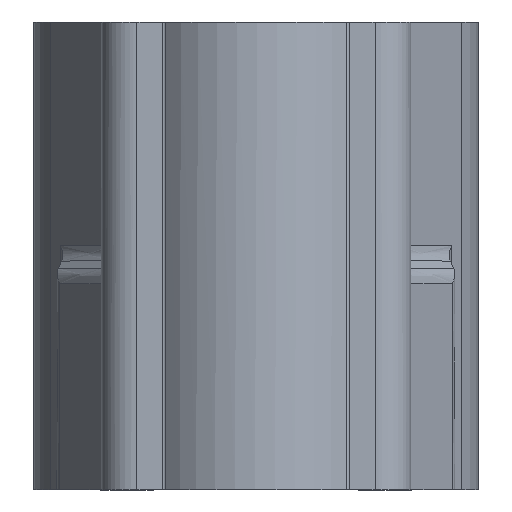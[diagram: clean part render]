
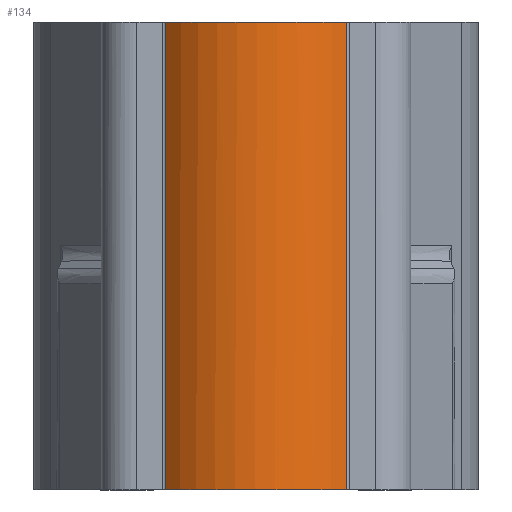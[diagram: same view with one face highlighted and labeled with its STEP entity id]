
A CAD part, left-side view. The second image highlights one B-rep face of the part: STEP entity #134.
In plain terms, the highlighted free-form (B-spline) face has degree [2, 1] with [5, 2] control points.
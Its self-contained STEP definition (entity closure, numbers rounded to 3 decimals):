
#134=ADVANCED_FACE('',(#268),#2068,.T.);
#268=FACE_OUTER_BOUND('',#402,.T.);
#402=EDGE_LOOP('',(#1076,#1077,#1078,#1079));
#1076=ORIENTED_EDGE('',*,*,#1409,.F.);
#1077=ORIENTED_EDGE('',*,*,#1407,.T.);
#1078=ORIENTED_EDGE('',*,*,#1408,.F.);
#1079=ORIENTED_EDGE('',*,*,#1410,.F.);
#1407=EDGE_CURVE('',#1781,#1869,#1633,.T.);
#1408=EDGE_CURVE('',#1868,#1869,#1752,.T.);
#1409=EDGE_CURVE('',#1781,#1782,#1753,.T.);
#1410=EDGE_CURVE('',#1782,#1868,#1634,.T.);
#1633=B_SPLINE_CURVE_WITH_KNOTS('',1,(#4269,#4270),.UNSPECIFIED.,.F.,.F.,
(2,2),(-45.4,0.),.UNSPECIFIED.);
#1634=B_SPLINE_CURVE_WITH_KNOTS('',1,(#4281,#4282),.UNSPECIFIED.,.F.,.F.,
(2,2),(-45.4,0.),.UNSPECIFIED.);
#1752=(
BOUNDED_CURVE()
B_SPLINE_CURVE(2,(#4271,#4272,#4273,#4274,#4275),.UNSPECIFIED.,.F.,.F.)
B_SPLINE_CURVE_WITH_KNOTS((3,2,3),(0.,10.157,20.314),
 .UNSPECIFIED.)
CURVE()
GEOMETRIC_REPRESENTATION_ITEM()
RATIONAL_B_SPLINE_CURVE((1.,0.92,1.,0.92,1.))
REPRESENTATION_ITEM('')
);
#1753=(
BOUNDED_CURVE()
B_SPLINE_CURVE(2,(#4276,#4277,#4278,#4279,#4280),.UNSPECIFIED.,.F.,.F.)
B_SPLINE_CURVE_WITH_KNOTS((3,2,3),(-20.314,-10.157,
0.),.UNSPECIFIED.)
CURVE()
GEOMETRIC_REPRESENTATION_ITEM()
RATIONAL_B_SPLINE_CURVE((1.,0.92,1.,0.92,1.))
REPRESENTATION_ITEM('')
);
#1781=VERTEX_POINT('',#2911);
#1782=VERTEX_POINT('',#2912);
#1868=VERTEX_POINT('',#2998);
#1869=VERTEX_POINT('',#2999);
#2068=(
BOUNDED_SURFACE()
B_SPLINE_SURFACE(2,1,((#2880,#2881),(#2882,#2883),(#2884,#2885),(#2886,
#2887),(#2888,#2889)),.UNSPECIFIED.,.F.,.F.,.F.)
B_SPLINE_SURFACE_WITH_KNOTS((3,2,3),(2,2),(-20.314,-10.157,
0.),(0.,45.4),.UNSPECIFIED.)
GEOMETRIC_REPRESENTATION_ITEM()
RATIONAL_B_SPLINE_SURFACE(((1.,1.),(0.92,0.92),
(1.,1.),(0.92,0.92),(1.,1.)))
REPRESENTATION_ITEM('')
SURFACE()
);
#2880=CARTESIAN_POINT('',(-20.056,-9.092,47.15));
#2881=CARTESIAN_POINT('',(-20.056,-9.092,0.));
#2882=CARTESIAN_POINT('',(-23.933,-5.373,47.15));
#2883=CARTESIAN_POINT('',(-23.933,-5.373,0.));
#2884=CARTESIAN_POINT('',(-23.933,0.,47.15));
#2885=CARTESIAN_POINT('',(-23.933,0.,0.));
#2886=CARTESIAN_POINT('',(-23.933,5.373,47.15));
#2887=CARTESIAN_POINT('',(-23.933,5.373,0.));
#2888=CARTESIAN_POINT('',(-20.056,9.092,47.15));
#2889=CARTESIAN_POINT('',(-20.056,9.092,0.));
#2911=CARTESIAN_POINT('',(-20.056,-9.092,0.));
#2912=CARTESIAN_POINT('',(-20.056,9.092,0.));
#2998=CARTESIAN_POINT('',(-20.056,9.092,47.15));
#2999=CARTESIAN_POINT('',(-20.056,-9.092,47.15));
#4269=CARTESIAN_POINT('',(-20.056,-9.092,0.));
#4270=CARTESIAN_POINT('',(-20.056,-9.092,47.15));
#4271=CARTESIAN_POINT('',(-20.056,9.092,47.15));
#4272=CARTESIAN_POINT('',(-23.933,5.373,47.15));
#4273=CARTESIAN_POINT('',(-23.933,0.,47.15));
#4274=CARTESIAN_POINT('',(-23.933,-5.373,47.15));
#4275=CARTESIAN_POINT('',(-20.056,-9.092,47.15));
#4276=CARTESIAN_POINT('',(-20.056,-9.092,0.));
#4277=CARTESIAN_POINT('',(-23.933,-5.373,0.));
#4278=CARTESIAN_POINT('',(-23.933,0.,0.));
#4279=CARTESIAN_POINT('',(-23.933,5.373,0.));
#4280=CARTESIAN_POINT('',(-20.056,9.092,0.));
#4281=CARTESIAN_POINT('',(-20.056,9.092,0.));
#4282=CARTESIAN_POINT('',(-20.056,9.092,47.15));
